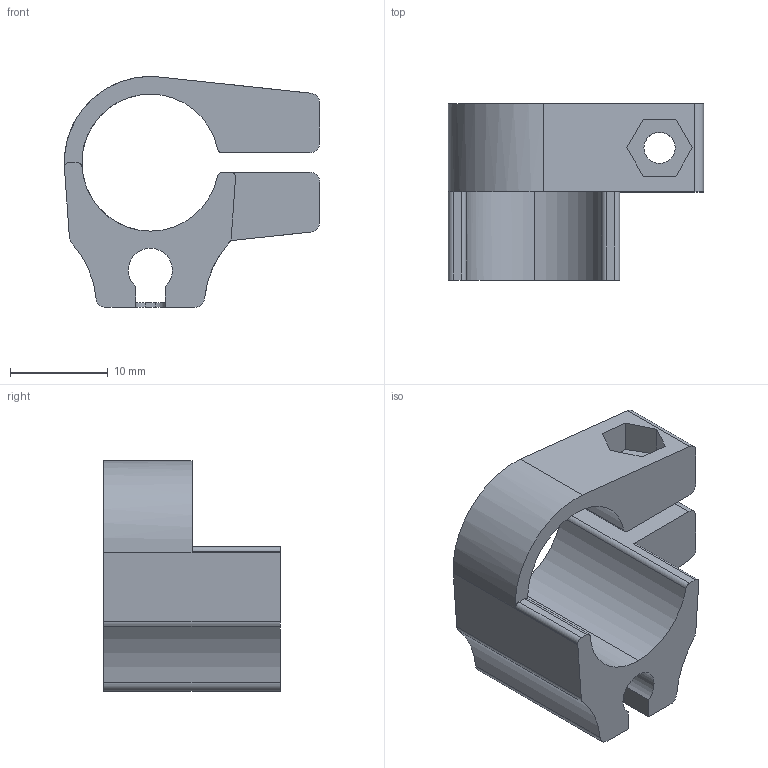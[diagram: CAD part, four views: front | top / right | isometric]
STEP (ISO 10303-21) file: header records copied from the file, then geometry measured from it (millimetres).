
FILE_DESCRIPTION (( 'STEP AP214' ), '1' );
FILE_NAME ('CA.TIK.14007.STEP', '2016-09-05T15:37:48', ( 'PC WORKSTATION' ), ( '' ), 'SwSTEP 2.0', 'SolidWorks 2012', '' );
FILE_SCHEMA (( 'AUTOMOTIVE_DESIGN' ));
Length unit declared in the file: millimetre
Products named in the file (1): CA.TIK.14007
Bounding box: 26.08 x 18 x 23.59 mm (x, y, z)
Volume: 3481.5 mm3; surface area: 2899.2 mm2
Topology: 1 solids, 1 shells, 58 faces, 168 edges, 112 vertices
Faces by surface type: cylinder 31, plane 27
Entity records: 1981 total; most frequent: DIRECTION 347, CARTESIAN_POINT 345, ORIENTED_EDGE 336, EDGE_CURVE 168, AXIS2_PLACEMENT_3D 122, VERTEX_POINT 112, LINE 103, VECTOR 103
